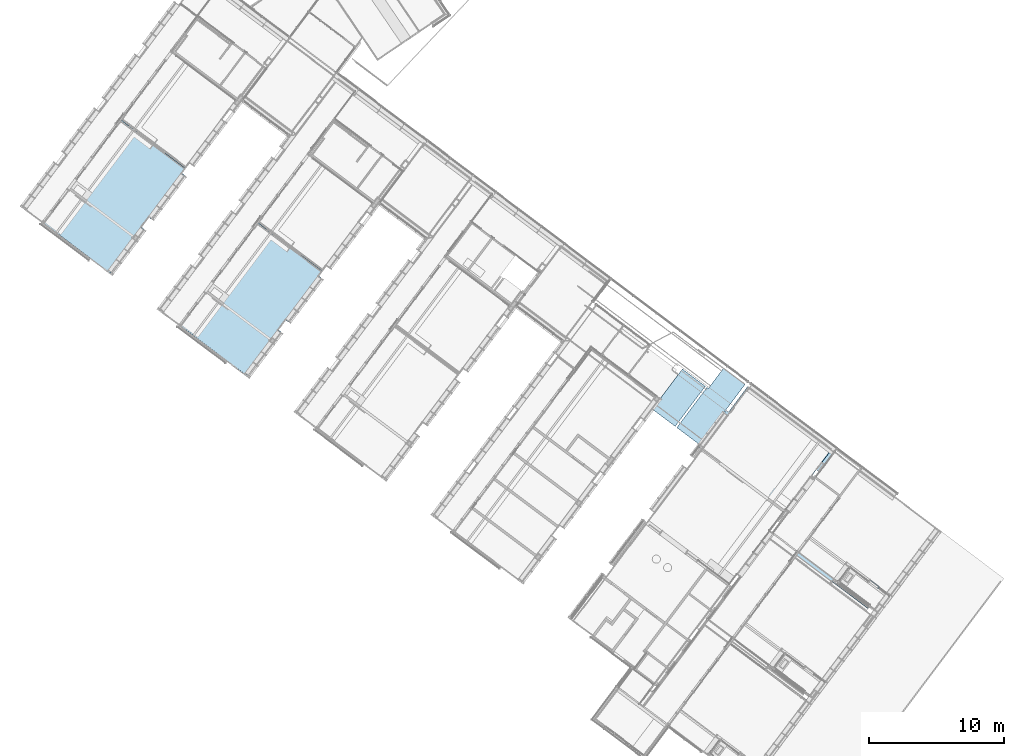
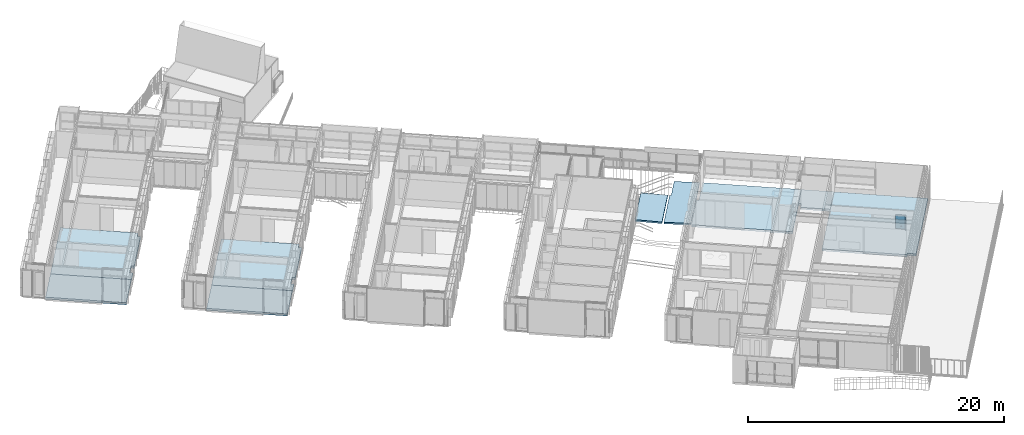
# One storey, part 114 of 243: 9 slabs, 1 plate, 1 element without a shape of its own.
"""IFC2X3 building model written with IfcOpenShell, lengths in metres."""

import ifcopenshell
import ifcopenshell.guid

model = None  # the IFC model being written
_history = None  # IfcOwnerHistory: only IFC2X3 demands one
_inside = {}  # id of a spatial element -> (the spatial element, [elements in it])
_under = {}  # id of a project, library or spatial element -> (it, [spatial elements below it])
_declared = {}  # id of a project -> (the project, [libraries it declares])
_typed = {}  # id of a type object -> (the type object, [elements of that type])
_made_of = {}  # id of a material, layer set ... -> (it, [elements and type objects made of it])


def new_model(schema):
    """Start an empty IFC model of exactly this schema.

    Asked for "IFC4X3", IfcOpenShell would pick the latest addendum, in which some entities
    have other attributes; the version numbers below select the first issue.
    IFC2X3 requires an IfcOwnerHistory on every rooted entity: one is made here for all.
    """
    global model, _history
    if schema == "IFC4X3":
        model = ifcopenshell.file(schema_version=(4, 3, 0, 0))
    else:
        model = ifcopenshell.file(schema=schema)
    _inside.clear()
    _under.clear()
    _declared.clear()
    _typed.clear()
    _made_of.clear()
    _history = None
    if model.schema == "IFC2X3":
        org = make("IfcOrganization", Name="unknown")
        user = make(
            "IfcPersonAndOrganization",
            ThePerson=make("IfcPerson", FamilyName="unknown"),
            TheOrganization=org,
        )
        app = make(
            "IfcApplication",
            ApplicationDeveloper=org,
            Version="unknown",
            ApplicationFullName="unknown",
            ApplicationIdentifier="unknown",
        )
        _history = make(
            "IfcOwnerHistory",
            OwningUser=user,
            OwningApplication=app,
            ChangeAction="ADDED",
            CreationDate=0,
        )
    return model


def make(cls, **values):
    """One entity of the class cls with the attributes given. An attribute that is None is left unset."""
    return model.create_entity(
        cls, **{name: value for name, value in values.items() if value is not None}
    )


def entity(cls, *values):
    """Any entity or typed value of the class cls, its attributes in the order of the schema. None: left unset."""
    e = model.create_entity(cls)
    for i, value in enumerate(values):
        if value is not None:
            e[i] = value
    return e


def rooted(cls, **values):
    """An entity with a GlobalId (a new one), such as an element, a storey or a relation."""
    return make(cls, GlobalId=ifcopenshell.guid.new(), OwnerHistory=_history, **values)


def si_unit(unit_type, name, prefix=None):
    """IfcSIUnit, for example si_unit("LENGTHUNIT", "METRE", prefix="MILLI")."""
    return make("IfcSIUnit", UnitType=unit_type, Prefix=prefix, Name=name)


def converted_unit(unit_type, name, factor, base, dimensions=None, offset=None):
    """IfcConversionBasedUnit, such as the inch: factor (a typed value) times the base unit."""
    return make(
        "IfcConversionBasedUnit"
        if offset is None
        else "IfcConversionBasedUnitWithOffset",
        ConversionOffset=offset,
        Dimensions=None
        if dimensions is None
        else entity("IfcDimensionalExponents", *dimensions),
        UnitType=unit_type,
        Name=name,
        ConversionFactor=make(
            "IfcMeasureWithUnit", ValueComponent=factor, UnitComponent=base
        ),
    )


def derived_unit(unit_type, elements):
    """IfcDerivedUnit: a product of units, each with its exponent."""
    return make(
        "IfcDerivedUnit",
        Elements=[
            make("IfcDerivedUnitElement", Unit=unit, Exponent=power)
            for unit, power in elements
        ],
        UnitType=unit_type,
    )


def assignment(units):
    """IfcUnitAssignment: the units of a project."""
    return None if units is None else make("IfcUnitAssignment", Units=units)


def point(xyz):
    """IfcCartesianPoint."""
    return None if xyz is None else make("IfcCartesianPoint", Coordinates=xyz)


def direction(xyz):
    """IfcDirection."""
    return None if xyz is None else make("IfcDirection", DirectionRatios=xyz)


def frame(location, z_axis=None, x_axis=None):
    """IfcAxis2Placement3D, a coordinate frame: its origin and axes. An axis left out is left unset."""
    return make(
        "IfcAxis2Placement3D",
        Location=point(location),
        Axis=direction(z_axis),
        RefDirection=direction(x_axis),
    )


def frame_2d(location, x_axis=None):
    """IfcAxis2Placement2D, a coordinate frame in the plane: its origin and x axis."""
    return make(
        "IfcAxis2Placement2D", Location=point(location), RefDirection=direction(x_axis)
    )


def origin():
    """The frame at (0, 0, 0) with its axes left unset."""
    return frame((0.0, 0.0, 0.0))


def place(relative_to, where):
    """IfcLocalPlacement: puts the frame where relative to a parent placement (None: the world)."""
    return make(
        "IfcLocalPlacement", PlacementRelTo=relative_to, RelativePlacement=where
    )


def context(
    kind, dimensions, precision=None, world=None, true_north=None, identifier=None
):
    """IfcGeometricRepresentationContext, for example the 3D "Model" context."""
    return make(
        "IfcGeometricRepresentationContext",
        ContextIdentifier=identifier,
        ContextType=kind,
        CoordinateSpaceDimension=dimensions,
        Precision=precision,
        WorldCoordinateSystem=world,
        TrueNorth=true_north,
    )


def subcontext(parent, identifier, kind, view, scale=None):
    """IfcGeometricRepresentationSubContext, for example "Body" below "Model"."""
    return make(
        "IfcGeometricRepresentationSubContext",
        ContextIdentifier=identifier,
        ContextType=kind,
        ParentContext=parent,
        TargetScale=scale,
        TargetView=view,
    )


def project(units=None, contexts=None):
    """IfcProject with its units and contexts."""
    return rooted(
        "IfcProject",
        Name="project",
        RepresentationContexts=contexts,
        UnitsInContext=assignment(units),
    )


def spatial(cls, under=None, at=None, **own):
    """A site, building, storey or space (cls), placed at a placement, below another one or the project."""
    s = rooted(cls, ObjectPlacement=at, **own)
    if under is not None:
        _under.setdefault(under.id(), (under, []))[1].append(s)
    return s


def polyline(points):
    """IfcPolyline through the points."""
    return make("IfcPolyline", Points=[point(p) for p in points])


def profile(cls, at=None, kind="AREA", **sizes):
    """A parametric profile (cls). Its sizes go by their IFC names, for example OverallWidth=200.0."""
    return make(cls, ProfileType=kind, Position=at, **sizes)


def rectangle(**sizes):
    """IfcRectangleProfileDef."""
    return profile("IfcRectangleProfileDef", **sizes)


def outline(outer, holes=None, kind="AREA"):
    """IfcArbitraryClosedProfileDef: a profile drawn as a closed curve; with holes, ...WithVoids."""
    if holes is None:
        return make("IfcArbitraryClosedProfileDef", ProfileType=kind, OuterCurve=outer)
    return make(
        "IfcArbitraryProfileDefWithVoids",
        ProfileType=kind,
        OuterCurve=outer,
        InnerCurves=holes,
    )


def extrude(swept, where, along, depth):
    """IfcExtrudedAreaSolid: the profile swept, set in the frame where, extruded along a direction by depth."""
    return make(
        "IfcExtrudedAreaSolid",
        SweptArea=swept,
        Position=where,
        ExtrudedDirection=direction(along),
        Depth=depth,
    )


def clip(a, b, op="DIFFERENCE"):
    """IfcBooleanClippingResult: the solid a cut by the half space b."""
    return make(
        "IfcBooleanClippingResult", Operator=op, FirstOperand=a, SecondOperand=b
    )


def halfspace(plane, agree):
    """IfcHalfSpaceSolid: all space on one side of the plane z = 0 of the frame plane."""
    return make(
        "IfcHalfSpaceSolid",
        BaseSurface=make("IfcPlane", Position=plane),
        AgreementFlag=agree,
    )


def faces_of(points, faces, orient=None, outer=None):
    """IfcFace entities. A face is a list of loops; a loop is a list of indices into points, from 0.

    orient and outer hold one flag for each loop. By default every Orientation is true, the
    first loop of a face is its IfcFaceOuterBound and the others are IfcFaceBound.
    """
    made = []
    for i, loops in enumerate(faces):
        bounds = []
        for j, loop in enumerate(loops):
            is_outer = j == 0 if outer is None else outer[i][j]
            bounds.append(
                make(
                    "IfcFaceOuterBound" if is_outer else "IfcFaceBound",
                    Bound=make("IfcPolyLoop", Polygon=[points[k] for k in loop]),
                    Orientation=True if orient is None else orient[i][j],
                )
            )
        made.append(make("IfcFace", Bounds=bounds))
    return made


def faceted_brep(points, faces, orient=None, outer=None, voids=None):
    """IfcFacetedBrep: a solid bounded by flat faces; with voids (closed shells), ...WithVoids."""
    shared = [point(p) for p in points]
    hull = make("IfcClosedShell", CfsFaces=faces_of(shared, faces, orient, outer))
    if voids is None:
        return make("IfcFacetedBrep", Outer=hull)
    return make(
        "IfcFacetedBrepWithVoids",
        Outer=hull,
        Voids=[
            make(cls, CfsFaces=faces_of(shared, fs, o, b)) for cls, fs, o, b in voids
        ],
    )


def shape(context_of_items, identifier, shape_type, items):
    """IfcShapeRepresentation: the items that make up one representation, for example the "Body"."""
    return make(
        "IfcShapeRepresentation",
        ContextOfItems=context_of_items,
        RepresentationIdentifier=identifier,
        RepresentationType=shape_type,
        Items=items,
    )


def source(mapping_origin, context_of_items, identifier, shape_type, items):
    """IfcRepresentationMap: a shape defined once, which mapped items show again and again."""
    return make(
        "IfcRepresentationMap",
        MappingOrigin=mapping_origin,
        MappedRepresentation=shape(context_of_items, identifier, shape_type, items),
    )


def transform(
    local_origin,
    x_axis=None,
    y_axis=None,
    z_axis=None,
    scale=None,
    scale2=None,
    scale3=None,
    uniform=True,
):
    """IfcCartesianTransformationOperator3D, or its non-uniform kind. x_axis, y_axis, z_axis: its Axis1, 2, 3."""
    if uniform:
        return make(
            "IfcCartesianTransformationOperator3D",
            Axis1=direction(x_axis),
            Axis2=direction(y_axis),
            LocalOrigin=point(local_origin),
            Scale=scale,
            Axis3=direction(z_axis),
        )
    return make(
        "IfcCartesianTransformationOperator3DnonUniform",
        Axis1=direction(x_axis),
        Axis2=direction(y_axis),
        LocalOrigin=point(local_origin),
        Scale=scale,
        Axis3=direction(z_axis),
        Scale2=scale2,
        Scale3=scale3,
    )


def mapped(mapping_source, mapping_target):
    """IfcMappedItem: shows the shape of a source again, moved by a transform."""
    return make(
        "IfcMappedItem", MappingSource=mapping_source, MappingTarget=mapping_target
    )


def material(Name=None, Category=None):
    """IfcMaterial."""
    return make("IfcMaterial", Name=Name, Category=Category)


def material_list(materials):
    """IfcMaterialList."""
    return make("IfcMaterialList", Materials=materials)


def layer(
    of_material, thickness, ventilated=None, Name=None, Category=None, Priority=None
):
    """IfcMaterialLayer: one layer of a wall or slab, of a material (None: an air gap)."""
    return make(
        "IfcMaterialLayer",
        Material=of_material,
        LayerThickness=thickness,
        IsVentilated=ventilated,
        Name=Name,
        Category=Category,
        Priority=Priority,
    )


def layer_set(layers, Name=None):
    """IfcMaterialLayerSet."""
    return make("IfcMaterialLayerSet", MaterialLayers=layers, LayerSetName=Name)


def layer_usage(for_layer_set, set_direction, sense, offset, extent=None):
    """IfcMaterialLayerSetUsage: how a layer set lies in its element."""
    return make(
        "IfcMaterialLayerSetUsage",
        ForLayerSet=for_layer_set,
        LayerSetDirection=set_direction,
        DirectionSense=sense,
        OffsetFromReferenceLine=offset,
        ReferenceExtent=extent,
    )


def made_of(thing, what):
    """Note that an element or type object is made of a material, layer set ...; save() writes the relation."""
    if what is not None:
        _made_of.setdefault(what.id(), (what, []))[1].append(thing)
    return thing


def type_object(cls, material=None, **own):
    """A type object (cls), such as IfcWallType, which elements share."""
    return made_of(rooted(cls, **own), material)


def type_shapes(of_type, sources):
    """Give a type object the sources (RepresentationMaps) that its elements show as mapped items."""
    of_type.RepresentationMaps = sources


def element(
    cls,
    number,
    at=None,
    inside=None,
    cuts=None,
    type_object=None,
    material=None,
    context=None,
    identifier="Body",
    shape_type=None,
    held_by="IfcProductDefinitionShape",
    body=None,
    shapes=None,
    **own,
):
    """One element of the class cls, such as IfcWall. Its Tag is "e" and its number.

    at: its placement. inside: the storey or other place that contains it. cuts: it is an
    opening in that element (IfcRelVoidsElement). A single representation is given by context,
    identifier, shape_type and body (its items); several are given by shapes. held_by: the class
    of the entity that holds the representations. save() writes the other relations.
    """
    e = rooted(cls, Tag="e%d" % number, ObjectPlacement=at, **own)
    if body is not None:
        shapes = [shape(context, identifier, shape_type, body)]
    if shapes is not None:
        e.Representation = make(held_by, Representations=shapes)
    if inside is not None:
        _inside.setdefault(inside.id(), (inside, []))[1].append(e)
    if cuts is not None:
        rooted(
            "IfcRelVoidsElement", RelatingBuildingElement=cuts, RelatedOpeningElement=e
        )
    if type_object is not None:
        _typed.setdefault(type_object.id(), (type_object, []))[1].append(e)
    return made_of(e, material)


def aggregate(whole, parts):
    """IfcRelAggregates: a whole, such as a stair, and the parts it consists of."""
    return rooted("IfcRelAggregates", RelatingObject=whole, RelatedObjects=parts)


def save(model, path):
    """Write the relations noted so far, then the file.

    IfcRelAggregates (storeys below a building ...), IfcRelContainedInSpatialStructure (elements
    in a storey), IfcRelDefinesByType, IfcRelAssociatesMaterial and IfcRelDeclares: one each for
    every whole, place, type object, material and project.
    """
    for whole, parts in _under.values():
        aggregate(whole, parts)
    for where, things in _inside.values():
        rooted(
            "IfcRelContainedInSpatialStructure",
            RelatedElements=things,
            RelatingStructure=where,
        )
    for kind, things in _typed.values():
        rooted("IfcRelDefinesByType", RelatedObjects=things, RelatingType=kind)
    for what, things in _made_of.values():
        rooted("IfcRelAssociatesMaterial", RelatedObjects=things, RelatingMaterial=what)
    for by, libraries in _declared.values():
        rooted("IfcRelDeclares", RelatingContext=by, RelatedDefinitions=libraries)
    model.write(path)


model = new_model("IFC2X3")

# Units and contexts
model_context = context("Model", 3, precision=1e-05, world=origin(), true_north=direction((6.123031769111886e-17, 1.0)))
body_context = subcontext(model_context, "Body", "Model", "MODEL_VIEW")
ifc_project = project(units=[si_unit("LENGTHUNIT", "METRE"), si_unit("AREAUNIT", "SQUARE_METRE"), si_unit("VOLUMEUNIT", "CUBIC_METRE"), converted_unit("PLANEANGLEUNIT", "DEGREE", entity("IfcRatioMeasure", 0.017453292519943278), si_unit("PLANEANGLEUNIT", "RADIAN"), dimensions=[0, 0, 0, 0, 0, 0, 0]), si_unit("MASSUNIT", "GRAM", prefix="KILO"), derived_unit("MASSDENSITYUNIT", [(si_unit("MASSUNIT", "GRAM", prefix="KILO"), 1), (si_unit("LENGTHUNIT", "METRE"), -3)]), derived_unit("IONCONCENTRATIONUNIT", [(si_unit("MASSUNIT", "GRAM", prefix="KILO"), 1), (si_unit("LENGTHUNIT", "METRE"), -3)]), derived_unit("MOMENTOFINERTIAUNIT", [(si_unit("LENGTHUNIT", "METRE"), 4)]), si_unit("TIMEUNIT", "SECOND"), si_unit("FREQUENCYUNIT", "HERTZ"), si_unit("THERMODYNAMICTEMPERATUREUNIT", "DEGREE_CELSIUS"), derived_unit("THERMALTRANSMITTANCEUNIT", [(si_unit("MASSUNIT", "GRAM", prefix="KILO"), 1), (si_unit("THERMODYNAMICTEMPERATUREUNIT", "KELVIN"), -1), (si_unit("TIMEUNIT", "SECOND"), -3)]), derived_unit("THERMALCONDUCTANCEUNIT", [(si_unit("MASSUNIT", "GRAM", prefix="KILO"), 1), (si_unit("THERMODYNAMICTEMPERATUREUNIT", "KELVIN"), -1), (si_unit("TIMEUNIT", "SECOND"), -3), (si_unit("LENGTHUNIT", "METRE"), 1)]), derived_unit("VOLUMETRICFLOWRATEUNIT", [(si_unit("LENGTHUNIT", "METRE"), 3), (si_unit("TIMEUNIT", "SECOND"), -1)]), derived_unit("MASSFLOWRATEUNIT", [(si_unit("MASSUNIT", "GRAM", prefix="KILO"), 1), (si_unit("TIMEUNIT", "SECOND"), -1)]), derived_unit("ROTATIONALFREQUENCYUNIT", [(si_unit("TIMEUNIT", "SECOND"), -1)]), si_unit("ELECTRICCURRENTUNIT", "AMPERE"), si_unit("ELECTRICVOLTAGEUNIT", "VOLT"), si_unit("POWERUNIT", "WATT"), si_unit("FORCEUNIT", "NEWTON", prefix="KILO"), si_unit("ILLUMINANCEUNIT", "LUX"), si_unit("LUMINOUSFLUXUNIT", "LUMEN"), si_unit("LUMINOUSINTENSITYUNIT", "CANDELA"), derived_unit("USERDEFINED", [(si_unit("MASSUNIT", "GRAM", prefix="KILO"), -1), (si_unit("LENGTHUNIT", "METRE"), -2), (si_unit("TIMEUNIT", "SECOND"), 3), (si_unit("LUMINOUSFLUXUNIT", "LUMEN"), 1)]), derived_unit("USERDEFINED", [(si_unit("MASSUNIT", "GRAM", prefix="KILO"), 1), (si_unit("TIMEUNIT", "SECOND"), -3), (si_unit("LENGTHUNIT", "METRE"), 3), (si_unit("ELECTRICCURRENTUNIT", "AMPERE"), -2)]), derived_unit("SOUNDPOWERUNIT", [(si_unit("MASSUNIT", "GRAM", prefix="KILO"), 1), (si_unit("TIMEUNIT", "SECOND"), -3), (si_unit("LENGTHUNIT", "METRE"), 2)]), derived_unit("SOUNDPRESSUREUNIT", [(si_unit("MASSUNIT", "GRAM", prefix="KILO"), 1), (si_unit("LENGTHUNIT", "METRE"), -1), (si_unit("TIMEUNIT", "SECOND"), -2)]), derived_unit("LINEARVELOCITYUNIT", [(si_unit("LENGTHUNIT", "METRE"), 1), (si_unit("TIMEUNIT", "SECOND"), -1)]), si_unit("PRESSUREUNIT", "PASCAL"), derived_unit("USERDEFINED", [(si_unit("MASSUNIT", "GRAM", prefix="KILO"), 1), (si_unit("LENGTHUNIT", "METRE"), -2), (si_unit("TIMEUNIT", "SECOND"), -2)]), derived_unit("LINEARFORCEUNIT", [(si_unit("MASSUNIT", "GRAM", prefix="KILO"), 1), (si_unit("TIMEUNIT", "SECOND"), -2)]), derived_unit("PLANARFORCEUNIT", [(si_unit("MASSUNIT", "GRAM", prefix="KILO"), 1), (si_unit("LENGTHUNIT", "METRE"), -1), (si_unit("TIMEUNIT", "SECOND"), -2)]), derived_unit("SPECIFICHEATCAPACITYUNIT", [(si_unit("THERMODYNAMICTEMPERATUREUNIT", "KELVIN"), -1), (si_unit("LENGTHUNIT", "METRE"), 2), (si_unit("TIMEUNIT", "SECOND"), -2)]), derived_unit("HEATINGVALUEUNIT", [(si_unit("LENGTHUNIT", "METRE"), 2), (si_unit("TIMEUNIT", "SECOND"), -2)]), derived_unit("VAPORPERMEABILITYUNIT", [(si_unit("LENGTHUNIT", "METRE"), -1), (si_unit("TIMEUNIT", "SECOND"), 1)]), derived_unit("DYNAMICVISCOSITYUNIT", [(si_unit("MASSUNIT", "GRAM", prefix="KILO"), 1), (si_unit("TIMEUNIT", "SECOND"), -1), (si_unit("LENGTHUNIT", "METRE"), -1)]), derived_unit("THERMALEXPANSIONCOEFFICIENTUNIT", [(si_unit("THERMODYNAMICTEMPERATUREUNIT", "KELVIN"), -1)]), derived_unit("MODULUSOFELASTICITYUNIT", [(si_unit("MASSUNIT", "GRAM", prefix="KILO"), 1), (si_unit("LENGTHUNIT", "METRE"), -1), (si_unit("TIMEUNIT", "SECOND"), -2)]), derived_unit("ISOTHERMALMOISTURECAPACITYUNIT", [(si_unit("LENGTHUNIT", "METRE"), 3), (si_unit("MASSUNIT", "GRAM", prefix="KILO"), -1)]), derived_unit("MOISTUREDIFFUSIVITYUNIT", [(si_unit("TIMEUNIT", "SECOND"), -1), (si_unit("LENGTHUNIT", "METRE"), 2)])], contexts=[model_context])

# Site, building, storey
site_placement = place(None, frame((0.0, 0.0, 235.0), z_axis=(0.0, 0.0, 1.0), x_axis=(-0.7996477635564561, 0.6004693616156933, 0.0)))
site = spatial("IfcSite", under=ifc_project, at=site_placement, Name="Default", CompositionType="ELEMENT")
building_placement = place(site_placement, origin())
building = spatial("IfcBuilding", under=site, at=building_placement, CompositionType="ELEMENT")
storey_placement = place(building_placement, origin())
storey = spatial("IfcBuildingStorey", under=building, at=storey_placement, Name="P0- Escola", CompositionType="ELEMENT", Elevation=0.0)

# Slabs
ifc_material_1 = material(Name="_Formigó antilliscant- T2- PAV")
ifc_layer_1 = layer(ifc_material_1, 0.14)
ifc_material_2 = material(Name="_Aillament")
ifc_layer_2 = layer(ifc_material_2, 0.06)
ifc_layer_set_1 = layer_set([ifc_layer_1, ifc_layer_2], Name="Suelo:PAV- Formigó Antilliscant + aillament- T1- 20 cm")
ifc_layer_usage_1 = layer_usage(ifc_layer_set_1, "AXIS3", "POSITIVE", 0.0)
slab_type_1 = type_object("IfcSlabType", Name="Suelo:PAV- Formigó Antilliscant + aillament- T1- 20 cm", PredefinedType="FLOOR", material=ifc_layer_set_1)
slab_1_placement = place(storey_placement, origin())
element("IfcSlab", 1, at=slab_1_placement, inside=storey, type_object=slab_type_1, material=ifc_layer_usage_1, Name="Suelo:PAV- Formigó Antilliscant + aillament- T1- 20 cm", ObjectType="Suelo:PAV- Formigó Antilliscant + aillament- T1- 20 cm", PredefinedType="FLOOR", context=body_context, shape_type="SweptSolid", body=[
    extrude(outline(polyline([(-2.733666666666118, -5.254999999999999), (3.070333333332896, -5.254999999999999), (3.0703333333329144, 2.727499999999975), (-0.33666666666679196, 2.7274999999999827), (-0.33666666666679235, 2.5275000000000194), (-2.7336666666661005, 2.5275000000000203), (-2.733666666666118, -5.254999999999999)])), frame((21.167647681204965, -39.30652509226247, 0.0), z_axis=(0.0, 0.0, -1.0), x_axis=(0.0, 1.0, 0.0)), (0.0, 0.0, 1.0), 0.2),
])
slab_2_placement = place(storey_placement, origin())
element("IfcSlab", 2, at=slab_2_placement, inside=storey, type_object=slab_type_1, material=ifc_layer_usage_1, Name="Suelo:PAV- Formigó Antilliscant + aillament- T1- 20 cm", ObjectType="Suelo:PAV- Formigó Antilliscant + aillament- T1- 20 cm", PredefinedType="FLOOR", context=body_context, shape_type="SweptSolid", body=[
    extrude(outline(polyline([(-1.4383333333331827, -1.6391666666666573), (0.9766666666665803, -1.6391666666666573), (0.9766666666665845, 0.7108333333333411), (0.46166666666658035, 0.710833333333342), (0.46166666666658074, 0.9283333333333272), (-1.438333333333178, 0.9283333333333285), (-1.4383333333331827, -1.6391666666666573)])), frame((14.984314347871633, -40.60185842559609, 0.0), z_axis=(0.0, 0.0, -1.0), x_axis=(0.0, 1.0, 0.0)), (0.0, 0.0, 1.0), 0.2),
])
slab_3_placement = place(storey_placement, origin())
element("IfcSlab", 3, at=slab_3_placement, inside=storey, type_object=slab_type_1, material=ifc_layer_usage_1, Name="Suelo:PAV- Formigó Antilliscant + aillament- T1- 20 cm", ObjectType="Suelo:PAV- Formigó Antilliscant + aillament- T1- 20 cm", PredefinedType="FLOOR", context=body_context, shape_type="SweptSolid", body=[
    extrude(outline(polyline([(-5.166666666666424, -2.699999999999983), (2.483333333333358, -2.699999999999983), (2.483333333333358, -2.0), (2.683333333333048, -2.0), (2.683333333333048, 4.7), (-5.166666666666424, 4.699999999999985), (-5.166666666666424, -2.699999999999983)])), frame((8.645147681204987, -36.8735250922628, 0.0), z_axis=(0.0, 0.0, -1.0), x_axis=(0.0, 1.0, 0.0)), (0.0, 0.0, 1.0), 0.2),
])
slab_4_placement = place(storey_placement, origin())
element("IfcSlab", 4, at=slab_4_placement, inside=storey, type_object=slab_type_1, material=ifc_layer_usage_1, Name="Suelo:PAV- Formigó Antilliscant + aillament- T1- 20 cm", ObjectType="Suelo:PAV- Formigó Antilliscant + aillament- T1- 20 cm", PredefinedType="FLOOR", context=body_context, shape_type="SweptSolid", body=[
    extrude(outline(polyline([(-2.9145007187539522, -1.3770000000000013), (1.1854992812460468, -1.3770000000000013), (1.1854992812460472, -1.1269999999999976), (2.085499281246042, -1.1269999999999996), (2.0854992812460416, -1.377000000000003), (3.008001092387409, -1.377000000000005), (3.008001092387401, 5.008000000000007), (-3.364498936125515, 5.008000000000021), (-3.364498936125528, -1.127000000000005), (-2.914500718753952, -1.1270000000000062), (-2.9145007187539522, -1.3770000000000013)])), frame((55.172147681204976, -26.550691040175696, 0.0), z_axis=(0.0, 0.0, -1.0), x_axis=(0.0, 1.0, 0.0)), (0.0, 0.0, 1.0), 0.2),
])
slab_5_placement = place(storey_placement, origin())
element("IfcSlab", 5, at=slab_5_placement, inside=storey, type_object=slab_type_1, material=ifc_layer_usage_1, Name="Suelo:PAV- Formigó Antilliscant + aillament- T1- 20 cm", ObjectType="Suelo:PAV- Formigó Antilliscant + aillament- T1- 20 cm", PredefinedType="FLOOR", context=body_context, shape_type="SweptSolid", body=[
    extrude(rectangle(XDim=3.197501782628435, YDim=6.364999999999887, at=frame_2d((2.1094237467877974e-15, 0.0), x_axis=(1.0, 0.0))), frame((56.997647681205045, -21.94393905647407, 0.0), z_axis=(0.0, 0.0, -1.0), x_axis=(0.0, 1.0, 0.0)), (0.0, 0.0, 1.0), 0.2),
])
slab_6_placement = place(storey_placement, origin())
element("IfcSlab", 6, at=slab_6_placement, inside=storey, type_object=slab_type_1, material=ifc_layer_usage_1, Name="Suelo:PAV- Formigó Antilliscant + aillament- T1- 20 cm", ObjectType="Suelo:PAV- Formigó Antilliscant + aillament- T1- 20 cm", PredefinedType="FLOOR", context=body_context, shape_type="SweptSolid", body=[
    extrude(outline(polyline([(-2.9145007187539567, -1.3770000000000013), (1.1854992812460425, -1.3770000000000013), (1.185499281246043, -1.1269999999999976), (2.0854992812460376, -1.1269999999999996), (2.085499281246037, -1.377000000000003), (3.008001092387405, -1.377000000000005), (3.0080010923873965, 5.008000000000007), (-3.3644989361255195, 5.008000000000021), (-3.3644989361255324, -1.127000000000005), (-2.914500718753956, -1.1270000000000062), (-2.9145007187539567, -1.3770000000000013)])), frame((67.87214768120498, -26.550691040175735, 0.0), z_axis=(0.0, 0.0, -1.0), x_axis=(0.0, 1.0, 0.0)), (0.0, 0.0, 1.0), 0.2),
])
slab_7_placement = place(storey_placement, origin())
element("IfcSlab", 7, at=slab_7_placement, inside=storey, type_object=slab_type_1, material=ifc_layer_usage_1, Name="Suelo:PAV- Formigó Antilliscant + aillament- T1- 20 cm", ObjectType="Suelo:PAV- Formigó Antilliscant + aillament- T1- 20 cm", PredefinedType="FLOOR", context=body_context, shape_type="SweptSolid", body=[
    extrude(rectangle(XDim=3.197501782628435, YDim=6.364999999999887, at=frame_2d((6.5503158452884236e-15, 0.0), x_axis=(1.0, 0.0))), frame((69.69764768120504, -21.943939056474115, 0.0), z_axis=(0.0, 0.0, -1.0), x_axis=(0.0, 1.0, 0.0)), (0.0, 0.0, 1.0), 0.2),
])
ifc_material_3 = material(Name="_Formigó antilliscant- T1 ext- PAV")
ifc_layer_3 = layer(ifc_material_3, 0.14999999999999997)
ifc_layer_set_2 = layer_set([ifc_layer_3], Name="Suelo:PAV- Formigó Antilliscant- T1 ext- 10 cm")
ifc_layer_usage_2 = layer_usage(ifc_layer_set_2, "AXIS3", "POSITIVE", 0.0)
slab_type_2 = type_object("IfcSlabType", Name="Suelo:PAV- Formigó Antilliscant- T1 ext- 10 cm", PredefinedType="FLOOR", material=ifc_layer_set_2)
slab_8_placement = place(storey_placement, origin())
element("IfcSlab", 8, at=slab_8_placement, inside=storey, type_object=slab_type_2, material=ifc_layer_usage_2, Name="Suelo:PAV- Formigó Antilliscant- T1 ext- 10 cm", ObjectType="Suelo:PAV- Formigó Antilliscant- T1 ext- 10 cm", PredefinedType="FLOOR", context=body_context, shape_type="SweptSolid", body=[
    clip(clip(extrude(outline(polyline([(-2.5083333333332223, -1.3753796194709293), (3.116666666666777, -1.3753796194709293), (3.116666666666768, 0.7502070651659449), (-0.6083333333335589, 0.7502070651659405), (-0.6083333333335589, 0.6251725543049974), (-2.5083333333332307, 0.6251725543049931), (-2.5083333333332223, -1.3753796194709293)])), frame((25.320147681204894, -39.531858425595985, -0.05231249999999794), z_axis=(-0.023493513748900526, 0.0, -0.999723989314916), x_axis=(0.0, 1.0, 0.0)), (0.0, 0.023493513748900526, 0.999723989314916), 0.15008283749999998), halfspace(frame((23.945147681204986, -38.64269175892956, -0.17004141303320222), z_axis=(-0.023493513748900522, 0.0, -0.999723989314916), x_axis=(0.999723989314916, 0.0, -0.023493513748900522)), False)), halfspace(frame((23.945147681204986, -38.64269175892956, -0.02), z_axis=(0.023493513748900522, 0.0, 0.999723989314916), x_axis=(-0.999723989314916, 0.0, 0.023493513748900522)), False)),
])
slab_9_placement = place(storey_placement, origin())
element("IfcSlab", 9, at=slab_9_placement, inside=storey, type_object=slab_type_2, material=ifc_layer_usage_2, Name="Suelo:PAV- Formigó Antilliscant- T1 ext- 10 cm", ObjectType="Suelo:PAV- Formigó Antilliscant- T1 ext- 10 cm", PredefinedType="FLOOR", context=body_context, shape_type="SweptSolid", body=[
    clip(clip(extrude(rectangle(XDim=2.1255866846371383, YDim=3.7250000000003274, at=frame_2d((0.0, 0.0), x_axis=(0.0, 1.0))), frame((27.282647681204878, -38.277691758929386, -0.04496875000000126), z_axis=(0.023493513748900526, 0.0, -0.999723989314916), x_axis=(0.0, 1.0, 0.0)), (0.0, -0.023493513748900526, 0.999723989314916), 0.15008283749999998), halfspace(frame((28.34514768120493, -38.642691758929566, -0.17004141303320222), z_axis=(0.023493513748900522, 0.0, -0.999723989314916), x_axis=(-0.999723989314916, 0.0, -0.023493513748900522)), False)), halfspace(frame((28.34514768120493, -38.642691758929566, -0.02), z_axis=(-0.023493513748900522, 0.0, 0.999723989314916), x_axis=(0.999723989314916, 0.0, 0.023493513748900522)), False)),
])

# Curtain wall, plate
curtain_wall_type = type_object("IfcCurtainWallType", Name="Muro cortina:MC- INT- k1", PredefinedType="NOTDEFINED")
curtain_wall_placement = place(storey_placement, origin())
curtain_wall = element("IfcCurtainWall", 10, at=curtain_wall_placement, inside=storey, type_object=curtain_wall_type, Name="Muro cortina:MC- INT- k1", ObjectType="Muro cortina:MC- INT- k1")
ifc_material_4 = material(Name="_Fusta massisa- T1")
ifc_material_5 = material(Name="_Vidre")
ifc_material_list = material_list([ifc_material_4, ifc_material_5])
plate_type = type_object("IfcPlateType", Name="PanellMurCortina_PortaInteriorVidre-infantil sup:PanellMurCortina_PortaInteriorVidre-infantil sup", PredefinedType="CURTAIN_PANEL", material=ifc_material_list)
shared_shape = source(origin(), body_context, "Body", "Brep", [
    faceted_brep([(0.275500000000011, 0.16299999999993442, 1.1650000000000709), (0.2755000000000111, 0.19299999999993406, 1.1650000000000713), (0.2755000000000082, 0.19299999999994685, 0.239999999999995), (0.27550000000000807, 0.1629999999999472, 0.23999999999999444), (0.2905000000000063, 0.19299999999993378, 1.1800000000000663), (0.2905000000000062, 0.16299999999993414, 1.1800000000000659), (0.2905000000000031, 0.16299999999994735, 0.22499999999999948), (0.29050000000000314, 0.19299999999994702, 0.22499999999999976), (-0.21049999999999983, 0.19299999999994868, 0.2399999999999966), (-0.2105, 0.162999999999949, 0.23999999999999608), (-0.2254999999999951, 0.1629999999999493, 0.2250000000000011), (-0.22549999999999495, 0.19299999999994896, 0.22500000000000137), (-0.21049999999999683, 0.19299999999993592, 1.1650000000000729), (-0.21049999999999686, 0.16299999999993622, 1.1650000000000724), (-0.22549999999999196, 0.16299999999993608, 1.1800000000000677), (-0.22549999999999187, 0.19299999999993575, 1.1800000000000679)], [[[0, 1, 2, 3]], [[4, 5, 6, 7]], [[3, 2, 8, 9]], [[7, 6, 10, 11]], [[9, 8, 12, 13]], [[11, 10, 14, 15]], [[13, 12, 1, 0]], [[3, 9, 13, 0], [5, 14, 10, 6]], [[15, 14, 5, 4]], [[1, 12, 8, 2], [7, 11, 15, 4]]], outer=[[True], [True], [True], [True], [True], [True], [True], [False, True], [True], [False, True]]),
    faceted_brep([(0.2905000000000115, 0.16299999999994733, 1.1800000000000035), (-0.22549999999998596, 0.16299999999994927, 1.1800000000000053), (-0.22549999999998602, 0.1429999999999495, 1.1800000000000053), (0.29050000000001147, 0.14299999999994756, 1.1800000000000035), (0.29050000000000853, 0.16299999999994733, 0.2249999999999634), (0.2905000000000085, 0.14299999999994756, 0.2249999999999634), (-0.22549999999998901, 0.1429999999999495, 0.22499999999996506), (-0.22549999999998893, 0.16299999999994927, 0.22499999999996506)], [[[0, 1, 2, 3]], [[4, 5, 6, 7]], [[1, 0, 4, 7]], [[2, 1, 7, 6]], [[3, 2, 6, 5]], [[0, 3, 5, 4]]]),
    faceted_brep([(0.4225000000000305, 0.15799999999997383, 1.2899999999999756), (-0.40749999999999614, 0.15799999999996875, 1.2899999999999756), (-0.4074999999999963, 0.12799999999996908, 1.2899999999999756), (0.39250000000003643, 0.12799999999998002, 1.2899999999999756), (0.39918172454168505, 0.1287535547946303, 1.2899999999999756), (0.40552006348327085, 0.1309726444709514, 1.2899999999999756), (0.41120592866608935, 0.13454604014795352, 1.2899999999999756), (0.41595395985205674, 0.13929407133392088, 1.2899999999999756), (0.41952735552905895, 0.14497993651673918, 1.2899999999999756), (0.4217469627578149, 0.15132054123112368, 1.2899999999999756), (0.4137132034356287, 0.1367867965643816, 0.004999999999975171), (0.4075000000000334, 0.1320192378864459, 0.004999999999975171), (0.4002645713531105, 0.12902222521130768, 0.004999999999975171), (0.39250000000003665, 0.12799999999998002, 0.004999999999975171), (-0.4074999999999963, 0.12799999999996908, 0.004999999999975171), (-0.40749999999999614, 0.15799999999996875, 0.004999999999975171), (-0.42249999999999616, 0.15799999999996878, 0.004999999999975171), (-0.42249999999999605, 0.18799999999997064, 0.004999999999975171), (0.39250000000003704, 0.18799999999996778, 0.004999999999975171), (0.40026457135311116, 0.18697777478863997, 0.004999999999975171), (0.40750000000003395, 0.18398076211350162, 0.004999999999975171), (0.41371320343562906, 0.17921320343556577, 0.004999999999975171), (0.4184807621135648, 0.1729999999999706, 0.004999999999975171), (0.4214777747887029, 0.16576457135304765, 0.004999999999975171), (0.42250000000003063, 0.15799999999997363, 0.004999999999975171), (0.4214777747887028, 0.15023542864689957, 0.004999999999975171), (0.4184807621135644, 0.1429999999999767, 0.004999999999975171), (-0.21049999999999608, 0.1429999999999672, 1.1649999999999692), (-0.21049999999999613, 0.1279999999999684, 1.1649999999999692), (-0.21049999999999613, 0.1279999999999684, 0.23999999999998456), (-0.21049999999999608, 0.1429999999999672, 0.23999999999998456), (0.2903124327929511, 0.14299999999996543, 1.1799999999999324), (0.2755000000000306, 0.14299999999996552, 1.1649999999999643), (0.2755000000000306, 0.14299999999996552, 0.23999999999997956), (-0.2254999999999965, 0.14299999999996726, 1.1799999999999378), (0.2903124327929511, 0.14299999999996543, 0.22499999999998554), (-0.2254999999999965, 0.14299999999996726, 0.22499999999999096), (-0.22549999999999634, 0.18799999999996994, 1.1799999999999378), (-0.22549999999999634, 0.18799999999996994, 0.22499999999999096), (0.3925000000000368, 0.18799999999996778, 1.3049999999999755), (0.3925000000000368, 0.18799999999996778, 1.2899999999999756), (0.2903124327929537, 0.18799999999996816, 1.1799999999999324), (-0.42249999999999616, 0.18799999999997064, 1.3049999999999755), (0.29031243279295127, 0.18799999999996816, 0.22499999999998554), (0.39250000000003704, 0.18799999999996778, 0.9075029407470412), (0.39250000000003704, 0.18799999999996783, 0.5250058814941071), (0.39250000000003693, 0.18799999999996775, 0.19624852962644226), (-0.42249999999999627, 0.15799999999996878, 1.3049999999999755), (0.4225000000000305, 0.15799999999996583, 1.3049999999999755), (0.2755000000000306, 0.1279999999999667, 0.23999999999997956), (0.3925000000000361, 0.12799999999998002, 0.19624535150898), (0.3925000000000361, 0.12799999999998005, 0.5250038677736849), (0.3925000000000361, 0.12799999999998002, 0.7162529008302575), (0.3925000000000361, 0.12799999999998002, 0.9075019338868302), (0.2755000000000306, 0.1279999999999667, 1.1649999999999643), (0.4184807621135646, 0.1729999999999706, 1.3049999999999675), (0.41371320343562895, 0.17921320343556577, 1.3049999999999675), (0.4075000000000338, 0.1839807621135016, 1.3049999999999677), (0.40026457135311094, 0.18697777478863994, 1.3049999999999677), (0.4214777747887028, 0.16576457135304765, 1.3049999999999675), (0.40398050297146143, 0.13028361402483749, 0.17712961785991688), (0.3984699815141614, 0.1286000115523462, 0.2904094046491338), (0.42104770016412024, 0.1672211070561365, 0.7897968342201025), (0.4163006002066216, 0.17626284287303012, 0.9180870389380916), (0.42021638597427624, 0.16948050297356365, 1.018919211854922), (0.42224334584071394, 0.1619157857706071, 0.9273610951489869), (0.42231308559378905, 0.16134363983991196, 0.6747823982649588), (0.410762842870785, 0.13419939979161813, 0.2859895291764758), (0.4039805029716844, 0.13028361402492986, 0.4036891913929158), (0.4202163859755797, 0.14651949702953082, 0.3868714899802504), (0.40398050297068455, 0.1857163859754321, 0.3769129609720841), (0.40454587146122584, 0.18547538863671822, 0.6474999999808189), (0.41076284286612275, 0.1818006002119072, 0.6475000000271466), (0.3984462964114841, 0.18740478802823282, 0.7632890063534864), (0.40398050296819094, 0.18571638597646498, 0.9180870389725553), (0.402413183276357, 0.12968518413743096, 1.074114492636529), (0.39829725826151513, 0.1874345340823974, 1.0013345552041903), (0.42224334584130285, 0.15408421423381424, 0.26996612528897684), (0.4222433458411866, 0.16191578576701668, 0.3414164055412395), (0.4024131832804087, 0.12968518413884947, 0.8240366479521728), (0.4202163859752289, 0.16948050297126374, 0.2633108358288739), (0.40814020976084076, 0.1323995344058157, 0.9490755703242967), (0.4079672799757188, 0.13229468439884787, 0.6741443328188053), (0.4137132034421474, 0.1367867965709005, 0.6536978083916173), (0.41630060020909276, 0.13973715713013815, 0.2613387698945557), (0.4208151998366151, 0.14808791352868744, 0.9314992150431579), (0.4137132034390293, 0.13678679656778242, 0.984365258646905), (0.4223434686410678, 0.15493938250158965, 1.0320400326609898), (0.42231114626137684, 0.15463911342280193, 0.647500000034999), (0.4002645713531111, 0.1869777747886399, 1.2899999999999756), (0.41790025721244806, 0.1420367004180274, 1.0712063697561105), (0.4161905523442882, 0.1764053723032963, 0.6297517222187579), (0.42021638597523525, 0.16948050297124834, 0.5606744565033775), (0.41630060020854, 0.17626284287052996, 0.34141640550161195), (0.4107628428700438, 0.18180060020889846, 0.2699661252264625), (0.4107628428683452, 0.18180060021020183, 1.0165204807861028), (0.413713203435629, 0.1792132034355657, 1.2899999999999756), (0.4184807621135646, 0.17299999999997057, 1.2899999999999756), (0.42041543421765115, 0.14701234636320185, 0.6605215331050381), (0.40750000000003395, 0.18398076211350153, 1.2899999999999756), (0.4214777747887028, 0.16576457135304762, 1.2899999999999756), (0.4176922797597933, 0.14171046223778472, 0.8190315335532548), (0.3975592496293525, 0.18757032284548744, 0.3606272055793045), (0.4176160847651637, 0.1415932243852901, 0.5396705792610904), (0.39881391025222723, 0.1286719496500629, 0.5287089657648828), (0.3977692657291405, 0.18753362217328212, 0.5627086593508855)], [[[0, 1, 2, 3, 4, 5, 6, 7, 8, 9]], [[10, 11, 12, 13, 14, 15, 16, 17, 18, 19, 20, 21, 22, 23, 24, 25, 26]], [[27, 28, 29, 30]], [[31, 32, 27]], [[32, 31, 33]], [[27, 34, 31]], [[35, 33, 31]], [[33, 35, 30]], [[36, 30, 35]], [[30, 36, 34]], [[34, 27, 30]], [[37, 34, 36, 38]], [[39, 40, 41]], [[37, 39, 41]], [[39, 37, 42]], [[40, 43, 41]], [[43, 40, 44]], [[43, 44, 45]], [[43, 45, 46]], [[43, 46, 18]], [[43, 18, 38]], [[17, 38, 18]], [[38, 17, 42]], [[38, 42, 37]], [[47, 42, 17, 16]], [[0, 48, 47, 16, 15, 1]], [[2, 1, 15, 14]], [[2, 28, 3]], [[28, 2, 29]], [[14, 29, 2]], [[29, 14, 13]], [[13, 49, 29]], [[49, 13, 50]], [[49, 50, 51]], [[49, 51, 52]], [[49, 52, 53]], [[49, 53, 3]], [[3, 54, 49]], [[54, 3, 28]], [[31, 41, 43, 35]], [[54, 32, 33, 49]], [[32, 54, 28, 27]], [[41, 31, 34, 37]], [[55, 56, 57, 58, 39, 42, 47, 48, 59]], [[35, 43, 38, 36]], [[49, 33, 30, 29]], [[12, 60, 61]], [[62, 63, 64]], [[65, 66, 62]], [[67, 68, 60]], [[25, 69, 26]], [[70, 71, 72]], [[73, 74, 71]], [[5, 4, 75]], [[76, 74, 73]], [[77, 24, 78]], [[12, 11, 60]], [[53, 52, 79, 75]], [[23, 80, 78]], [[81, 82, 83]], [[84, 67, 10]], [[9, 8, 85]], [[44, 76, 73]], [[86, 7, 6]], [[87, 88, 65]], [[19, 18, 46]], [[39, 58, 89, 40]], [[8, 7, 90]], [[81, 6, 5]], [[24, 77, 25]], [[4, 3, 53]], [[80, 23, 22]], [[91, 92, 93]], [[40, 89, 76]], [[24, 23, 78]], [[93, 94, 72]], [[72, 95, 63]], [[66, 65, 88]], [[21, 94, 93]], [[83, 67, 84]], [[96, 97, 63]], [[98, 88, 85]], [[95, 99, 96]], [[74, 89, 99]], [[87, 65, 0]], [[0, 65, 100]], [[83, 86, 81]], [[93, 80, 22]], [[95, 72, 74]], [[72, 94, 70]], [[80, 93, 92]], [[85, 101, 98]], [[97, 100, 64]], [[63, 95, 96]], [[90, 86, 101]], [[64, 100, 65]], [[93, 22, 21]], [[11, 10, 67]], [[9, 85, 87]], [[102, 46, 45]], [[20, 19, 70]], [[5, 75, 81]], [[101, 86, 83]], [[66, 92, 62]], [[77, 88, 69]], [[21, 20, 94]], [[63, 91, 72]], [[10, 26, 84]], [[82, 67, 83]], [[74, 99, 95]], [[62, 64, 65]], [[63, 97, 64]], [[88, 77, 78]], [[69, 25, 77]], [[20, 70, 94]], [[61, 51, 50]], [[50, 13, 12]], [[46, 102, 19]], [[78, 80, 92]], [[26, 69, 84]], [[84, 69, 103]], [[53, 75, 4]], [[81, 75, 79]], [[81, 79, 82]], [[6, 81, 86]], [[104, 82, 79]], [[67, 82, 68]], [[98, 103, 69]], [[90, 85, 8]], [[86, 90, 7]], [[85, 90, 101]], [[103, 101, 83]], [[88, 98, 69]], [[101, 103, 98]], [[84, 103, 83]], [[51, 61, 104]], [[52, 51, 104]], [[62, 92, 91]], [[88, 78, 66]], [[92, 66, 78]], [[67, 60, 11]], [[61, 60, 68]], [[61, 68, 104]], [[12, 61, 50]], [[82, 104, 68]], [[52, 104, 79]], [[71, 70, 105]], [[74, 72, 71]], [[105, 70, 102]], [[45, 44, 73]], [[40, 76, 44]], [[89, 74, 76]], [[9, 87, 0]], [[88, 87, 85]], [[91, 63, 62]], [[93, 72, 91]], [[105, 102, 45]], [[19, 102, 70]], [[45, 73, 105]], [[71, 105, 73]], [[59, 48, 0, 100]], [[55, 59, 100, 97]], [[56, 55, 97, 96]], [[57, 56, 96, 99]], [[58, 57, 99, 89]]]),
    faceted_brep([(-0.4225000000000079, 0.1319999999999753, 0.0), (-0.4225000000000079, 0.15772492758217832, 0.0), (-0.4095000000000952, 0.15772492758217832, 0.0), (-0.4095000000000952, 0.12799999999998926, 0.0), (-0.4175000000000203, 0.12799999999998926, 0.0), (-0.4175000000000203, 0.1319999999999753, 0.0), (-0.4225000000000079, 0.13199999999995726, 1.305000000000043), (-0.42250000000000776, 0.15772492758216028, 1.3050000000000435), (0.4225000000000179, 0.15772492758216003, 1.3050000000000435), (0.4225000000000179, 0.15772492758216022, 1.292000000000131), (-0.4095000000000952, 0.15772492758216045, 1.2920000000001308), (-0.4095000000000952, 0.1279999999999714, 1.2920000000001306), (0.4225000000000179, 0.12799999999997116, 1.2920000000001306), (0.4225000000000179, 0.12799999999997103, 1.3000000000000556), (-0.41750000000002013, 0.12799999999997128, 1.3000000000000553), (-0.4175000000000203, 0.13199999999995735, 1.3000000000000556), (0.4225000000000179, 0.1319999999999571, 1.3000000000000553), (0.4225000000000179, 0.13199999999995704, 1.305000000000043)], [[[0, 1, 2, 3, 4, 5]], [[1, 0, 6, 7]], [[2, 1, 7, 8, 9, 10]], [[3, 2, 10, 11]], [[4, 3, 11, 12, 13, 14]], [[5, 4, 14, 15]], [[0, 5, 15, 16, 17, 6]], [[7, 6, 17, 8]], [[17, 16, 13, 12, 9, 8]], [[11, 10, 9, 12]], [[15, 14, 13, 16]]]),
    faceted_brep([(0.4225000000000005, -0.026000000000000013, 1.304999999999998), (0.4225000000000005, 0.12400000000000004, 1.304999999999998), (0.3525000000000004, 0.12400000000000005, 1.304999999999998), (0.3525000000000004, -0.026000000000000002, 1.304999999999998), (0.4225000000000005, -0.026000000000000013, 0.0), (0.3525000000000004, -0.026000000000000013, 0.0), (0.3525000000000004, 0.12400000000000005, 0.0), (0.4225000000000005, 0.12400000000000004, 0.0)], [[[0, 1, 2, 3]], [[4, 5, 6, 7]], [[3, 5, 4, 0]], [[2, 6, 5, 3]], [[1, 7, 6, 2]], [[0, 4, 7, 1]]]),
])
type_shapes(plate_type, [shared_shape])
plate_placement = place(curtain_wall_placement, frame((7.346647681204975, -35.827191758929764, 1.2000000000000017), z_axis=(0.0, 0.0, 1.0), x_axis=(-1.0, 0.0, 0.0)))
plate = element("IfcPlate", 11, at=plate_placement, type_object=plate_type, material=ifc_material_list, Name="PanellMurCortina_PortaInteriorVidre-infantil sup:PanellMurCortina_PortaInteriorVidre-infantil sup", ObjectType="PanellMurCortina_PortaInteriorVidre-infantil sup:PanellMurCortina_PortaInteriorVidre-infantil sup", context=body_context, shape_type="MappedRepresentation", body=[
    mapped(shared_shape, transform((0.0, 0.0, 0.0), scale=1.0)),
])
aggregate(curtain_wall, [plate])

save(model, "model.ifc")
